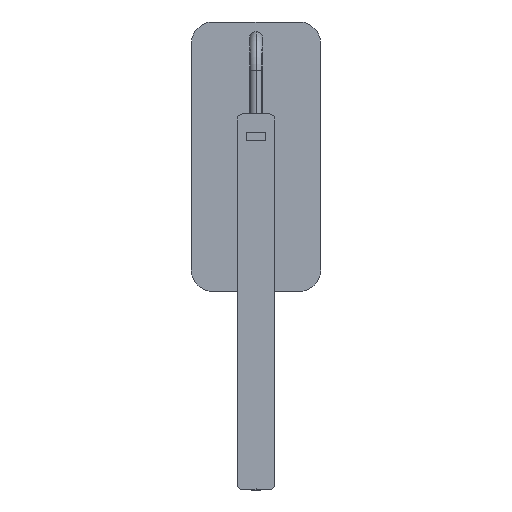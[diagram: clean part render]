
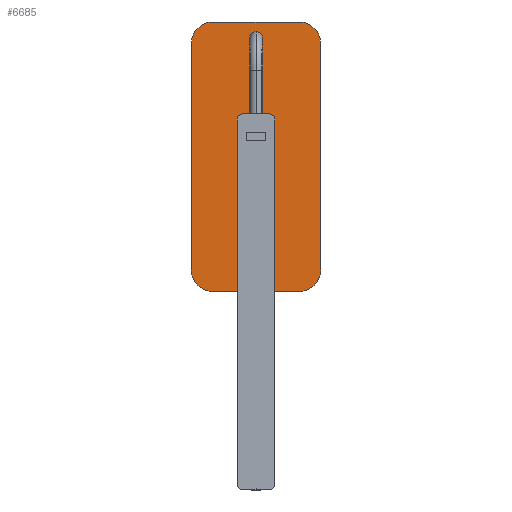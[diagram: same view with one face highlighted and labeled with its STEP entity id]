
A CAD part, front view. The second image highlights one B-rep face of the part: STEP entity #6685.
In plain terms, the highlighted planar face has unit normal (0, -1, 0).
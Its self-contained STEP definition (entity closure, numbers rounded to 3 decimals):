
#6484=CARTESIAN_POINT('',(105.,0.,40.));
#6485=DIRECTION('',(0.,-1.,0.));
#6486=DIRECTION('',(1.,0.,0.));
#6487=AXIS2_PLACEMENT_3D('',#6484,#6485,#6486);
#6489=DIRECTION('',(0.,0.,-1.));
#6490=VECTOR('',#6489,80.);
#6491=CARTESIAN_POINT('',(125.,0.,40.));
#6492=LINE('',#6491,#6490);
#6493=CARTESIAN_POINT('',(105.,0.,-40.));
#6494=DIRECTION('',(0.,-1.,0.));
#6495=DIRECTION('',(0.,0.,-1.));
#6496=AXIS2_PLACEMENT_3D('',#6493,#6494,#6495);
#6498=DIRECTION('',(-1.,0.,0.));
#6499=VECTOR('',#6498,210.);
#6500=CARTESIAN_POINT('',(105.,0.,-60.));
#6501=LINE('',#6500,#6499);
#6502=CARTESIAN_POINT('',(-105.,0.,-40.));
#6503=DIRECTION('',(0.,-1.,0.));
#6504=DIRECTION('',(-1.,0.,0.));
#6505=AXIS2_PLACEMENT_3D('',#6502,#6503,#6504);
#6507=DIRECTION('',(0.,0.,1.));
#6508=VECTOR('',#6507,80.);
#6509=CARTESIAN_POINT('',(-125.,0.,-40.));
#6510=LINE('',#6509,#6508);
#6511=CARTESIAN_POINT('',(-105.,0.,40.));
#6512=DIRECTION('',(0.,-1.,0.));
#6513=DIRECTION('',(0.,0.,1.));
#6514=AXIS2_PLACEMENT_3D('',#6511,#6512,#6513);
#6516=DIRECTION('',(1.,0.,0.));
#6517=VECTOR('',#6516,210.);
#6518=CARTESIAN_POINT('',(-105.,0.,60.));
#6519=LINE('',#6518,#6517);
#6520=CARTESIAN_POINT('',(-110.,0.,0.));
#6521=DIRECTION('',(0.,-1.,0.));
#6522=DIRECTION('',(1.,0.,0.));
#6523=AXIS2_PLACEMENT_3D('',#6520,#6521,#6522);
#6525=CARTESIAN_POINT('',(-110.,0.,0.));
#6526=DIRECTION('',(0.,-1.,0.));
#6527=DIRECTION('',(-1.,0.,0.));
#6528=AXIS2_PLACEMENT_3D('',#6525,#6526,#6527);
#6616=CARTESIAN_POINT('',(125.,0.,40.));
#6617=CARTESIAN_POINT('',(105.,0.,60.));
#6618=VERTEX_POINT('',#6616);
#6619=VERTEX_POINT('',#6617);
#6624=CARTESIAN_POINT('',(105.,0.,-60.));
#6625=CARTESIAN_POINT('',(125.,0.,-40.));
#6626=VERTEX_POINT('',#6624);
#6627=VERTEX_POINT('',#6625);
#6632=CARTESIAN_POINT('',(-105.,0.,60.));
#6633=CARTESIAN_POINT('',(-125.,0.,40.));
#6634=VERTEX_POINT('',#6632);
#6635=VERTEX_POINT('',#6633);
#6640=CARTESIAN_POINT('',(-125.,0.,-40.));
#6641=CARTESIAN_POINT('',(-105.,0.,-60.));
#6642=VERTEX_POINT('',#6640);
#6643=VERTEX_POINT('',#6641);
#6648=CARTESIAN_POINT('',(-104.75,0.,0.));
#6649=CARTESIAN_POINT('',(-115.25,0.,0.));
#6650=VERTEX_POINT('',#6648);
#6651=VERTEX_POINT('',#6649);
#6656=CARTESIAN_POINT('',(0.,0.,0.));
#6657=DIRECTION('',(0.,1.,0.));
#6658=DIRECTION('',(1.,0.,0.));
#6659=AXIS2_PLACEMENT_3D('',#6656,#6657,#6658);
#6660=PLANE('',#6659);
#6662=ORIENTED_EDGE('',*,*,#6661,.F.);
#6664=ORIENTED_EDGE('',*,*,#6663,.T.);
#6666=ORIENTED_EDGE('',*,*,#6665,.F.);
#6668=ORIENTED_EDGE('',*,*,#6667,.T.);
#6670=ORIENTED_EDGE('',*,*,#6669,.F.);
#6672=ORIENTED_EDGE('',*,*,#6671,.T.);
#6674=ORIENTED_EDGE('',*,*,#6673,.F.);
#6676=ORIENTED_EDGE('',*,*,#6675,.T.);
#6677=EDGE_LOOP('',(#6662,#6664,#6666,#6668,#6670,#6672,#6674,#6676));
#6678=FACE_OUTER_BOUND('',#6677,.F.);
#6680=ORIENTED_EDGE('',*,*,#6679,.T.);
#6682=ORIENTED_EDGE('',*,*,#6681,.T.);
#6683=EDGE_LOOP('',(#6680,#6682));
#6684=FACE_BOUND('',#6683,.F.);
#6488=CIRCLE('',#6487,20.);
#6497=CIRCLE('',#6496,20.);
#6506=CIRCLE('',#6505,20.);
#6515=CIRCLE('',#6514,20.);
#6524=CIRCLE('',#6523,5.25);
#6529=CIRCLE('',#6528,5.25);
#6661=EDGE_CURVE('',#6618,#6619,#6488,.T.);
#6663=EDGE_CURVE('',#6618,#6627,#6492,.T.);
#6665=EDGE_CURVE('',#6626,#6627,#6497,.T.);
#6667=EDGE_CURVE('',#6626,#6643,#6501,.T.);
#6669=EDGE_CURVE('',#6642,#6643,#6506,.T.);
#6671=EDGE_CURVE('',#6642,#6635,#6510,.T.);
#6673=EDGE_CURVE('',#6634,#6635,#6515,.T.);
#6675=EDGE_CURVE('',#6634,#6619,#6519,.T.);
#6679=EDGE_CURVE('',#6650,#6651,#6524,.T.);
#6681=EDGE_CURVE('',#6651,#6650,#6529,.T.);
#6685=ADVANCED_FACE('',(#6678,#6684),#6660,.F.);
